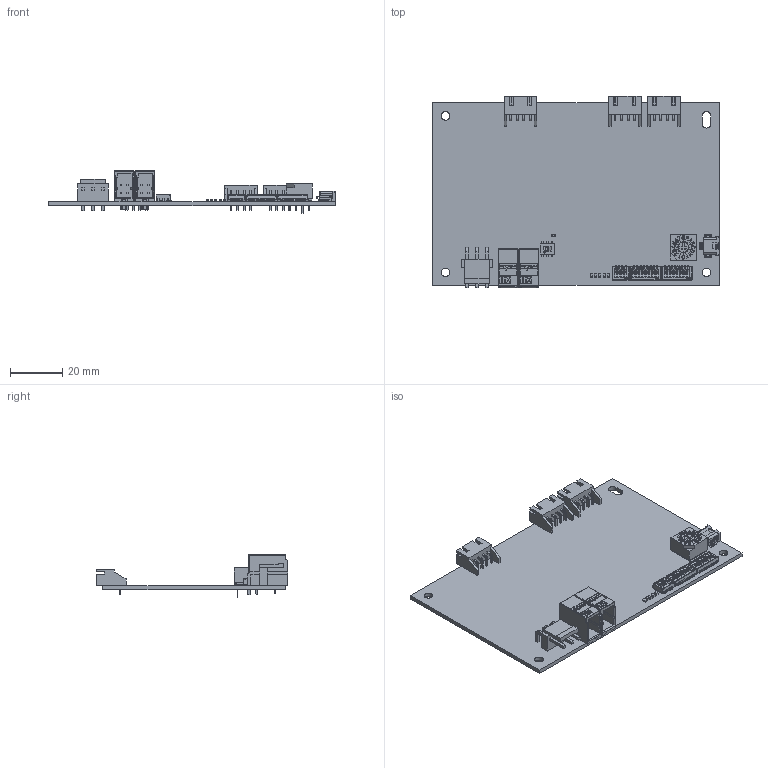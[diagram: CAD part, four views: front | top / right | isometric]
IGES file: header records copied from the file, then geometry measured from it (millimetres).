
Start section: SolidWorks IGES file using analytic representation for surfaces
Bounding box: 110 x 73.55 x 16.3 mm (x, y, z)
Surface area: 23021.6 mm2 (no closed solid volume)
Topology: 0 solids, 0 shells, 3245 faces, 23660 edges, 23660 vertices
Faces by surface type: bspline 2464, revolution 781
